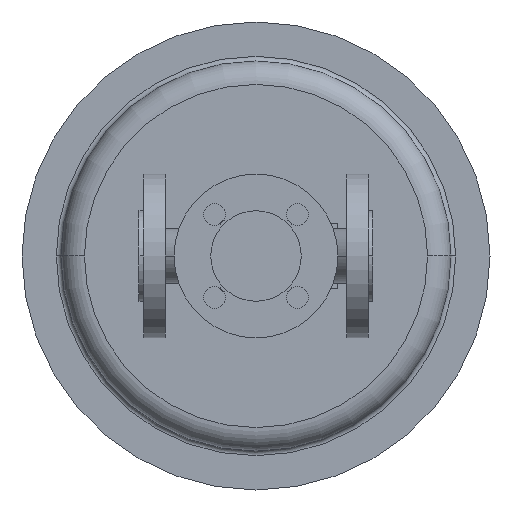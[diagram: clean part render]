
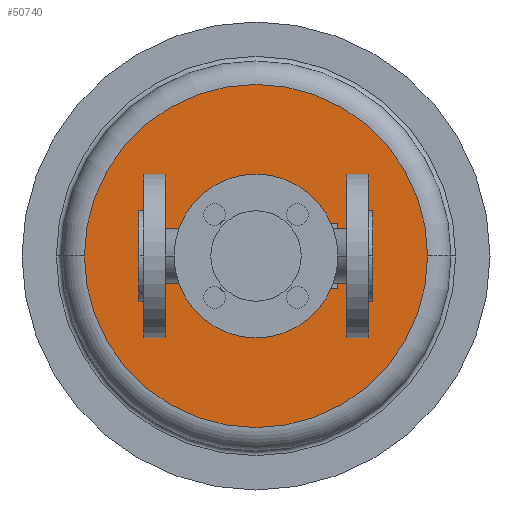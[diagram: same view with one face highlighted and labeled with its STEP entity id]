
A CAD part, front view. The second image highlights one B-rep face of the part: STEP entity #50740.
In plain terms, the highlighted planar face has unit normal (0, -1, 0).
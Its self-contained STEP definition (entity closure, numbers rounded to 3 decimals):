
#37250=CARTESIAN_POINT('',(-35.,356.,0.));
#37260=VERTEX_POINT('',#37250);
#37360=CARTESIAN_POINT('',(185.,356.,0.));
#37370=VERTEX_POINT('',#37360);
#37400=CARTESIAN_POINT('',(75.,356.,0.));
#37410=DIRECTION('',(0.,1.,0.));
#37420=DIRECTION('',(1.,0.,0.));
#37430=AXIS2_PLACEMENT_3D('',#37400,#37410,#37420);
#37440=CIRCLE('',#37430,110.);
#37450=EDGE_CURVE('',#37260,#37370,#37440,.T.);
#38030=CARTESIAN_POINT('',(110.,356.,0.));
#38040=VERTEX_POINT('',#38030);
#38070=CARTESIAN_POINT('',(125.,356.,0.));
#38080=DIRECTION('',(0.,1.,0.));
#38090=DIRECTION('',(1.,0.,0.));
#38100=AXIS2_PLACEMENT_3D('',#38070,#38080,#38090);
#38110=CIRCLE('',#38100,15.);
#38120=CARTESIAN_POINT('',(140.,356.,0.));
#38130=VERTEX_POINT('',#38120);
#38140=EDGE_CURVE('',#38040,#38130,#38110,.T.);
#38450=CARTESIAN_POINT('',(40.,356.,0.));
#38460=VERTEX_POINT('',#38450);
#38490=CARTESIAN_POINT('',(25.,356.,0.));
#38500=DIRECTION('',(0.,1.,0.));
#38510=DIRECTION('',(1.,0.,0.));
#38520=AXIS2_PLACEMENT_3D('',#38490,#38500,#38510);
#38530=CIRCLE('',#38520,15.);
#38540=CARTESIAN_POINT('',(10.,356.,0.));
#38550=VERTEX_POINT('',#38540);
#38560=EDGE_CURVE('',#38460,#38550,#38530,.T.);
#38850=CARTESIAN_POINT('',(93.45,356.,0.));
#38860=VERTEX_POINT('',#38850);
#39040=CARTESIAN_POINT('',(56.55,356.,0.));
#39050=VERTEX_POINT('',#39040);
#39080=CARTESIAN_POINT('',(75.,356.,0.));
#39090=DIRECTION('',(0.,1.,0.));
#39100=DIRECTION('',(1.,0.,0.));
#39110=AXIS2_PLACEMENT_3D('',#39080,#39090,#39100);
#39120=CIRCLE('',#39110,18.45);
#39130=EDGE_CURVE('',#39050,#38860,#39120,.T.);
#50490=CARTESIAN_POINT('',(130.,356.,0.));
#50500=DIRECTION('',(0.,-1.,0.));
#50510=DIRECTION('',(-1.,0.,0.));
#50520=AXIS2_PLACEMENT_3D('',#50490,#50500,#50510);
#50530=PLANE('',#50520);
#50540=EDGE_CURVE('',#38860,#39050,#39120,.T.);
#50550=ORIENTED_EDGE('',*,*,#50540,.T.);
#50560=ORIENTED_EDGE('',*,*,#39130,.T.);
#50570=EDGE_LOOP('',(#50560,#50550));
#50580=FACE_BOUND('',#50570,.T.);
#50590=EDGE_CURVE('',#38550,#38460,#38530,.T.);
#50600=ORIENTED_EDGE('',*,*,#50590,.T.);
#50610=ORIENTED_EDGE('',*,*,#38560,.T.);
#50620=EDGE_LOOP('',(#50610,#50600));
#50630=FACE_BOUND('',#50620,.T.);
#50640=ORIENTED_EDGE('',*,*,#38140,.T.);
#50650=EDGE_CURVE('',#38130,#38040,#38110,.T.);
#50660=ORIENTED_EDGE('',*,*,#50650,.T.);
#50670=EDGE_LOOP('',(#50660,#50640));
#50680=FACE_BOUND('',#50670,.T.);
#50690=EDGE_CURVE('',#37370,#37260,#37440,.T.);
#50700=ORIENTED_EDGE('',*,*,#50690,.F.);
#50710=ORIENTED_EDGE('',*,*,#37450,.F.);
#50720=EDGE_LOOP('',(#50710,#50700));
#50730=FACE_OUTER_BOUND('',#50720,.T.);
#50740=ADVANCED_FACE('',(#50580,#50630,#50680,#50730),#50530,.T.);
